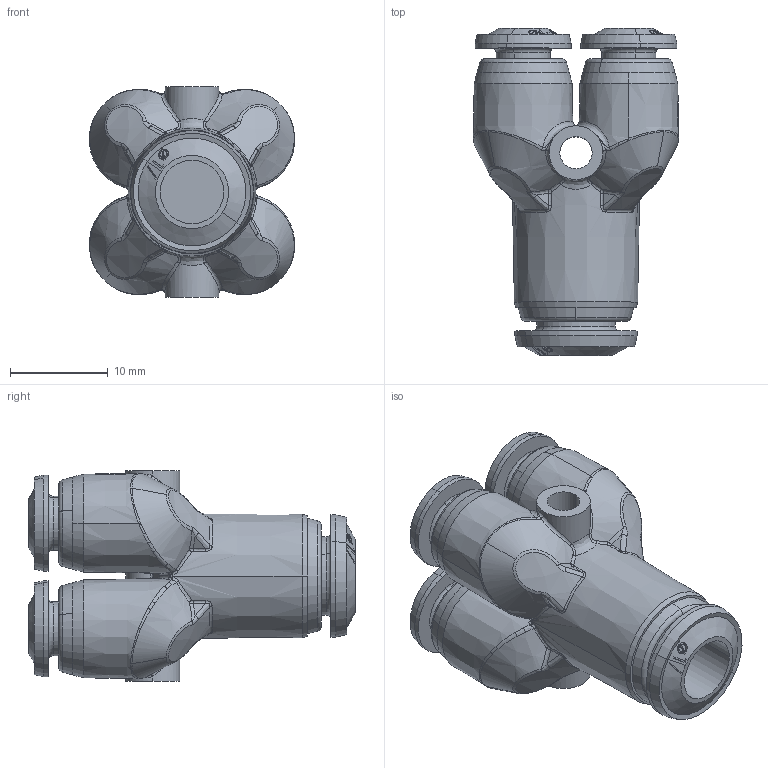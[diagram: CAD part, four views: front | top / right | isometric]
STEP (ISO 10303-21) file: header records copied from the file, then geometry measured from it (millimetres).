
FILE_DESCRIPTION (( 'STEP AP214' ), '1' );
FILE_NAME ('8533000001A.STEP', '2019-10-11T06:38:55', ( 'admin' ), ( '' ), 'SwSTEP 2.0', 'SolidWorks 2016', '' );
FILE_SCHEMA (( 'AUTOMOTIVE_DESIGN' ));
Length unit declared in the file: millimetre
Products named in the file (1): 8533000001A
Bounding box: 21 x 33.4 x 21.5 mm (x, y, z)
Volume: 5279.6 mm3; surface area: 4659 mm2
Topology: 1 solids, 1 shells, 844 faces, 2155 edges, 1382 vertices
Faces by surface type: bspline 622, cone 127, cylinder 37, plane 31, torus 27
Entity records: 55722 total; most frequent: CARTESIAN_POINT 39557, ORIENTED_EDGE 4302, EDGE_CURVE 2151, DIRECTION 1674, VERTEX_POINT 1382, B_SPLINE_CURVE_WITH_KNOTS 1265, EDGE_LOOP 919, ADVANCED_FACE 844
